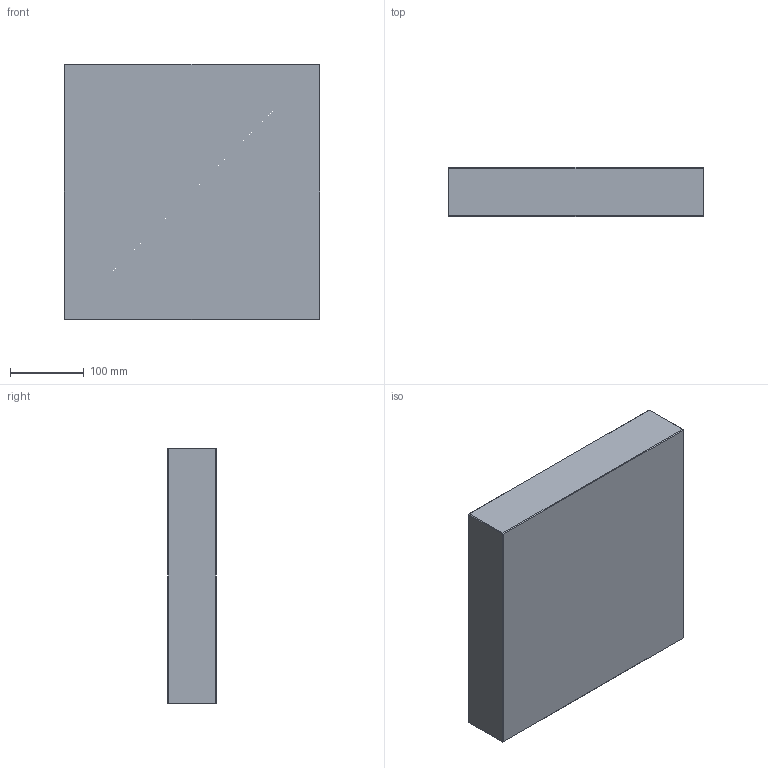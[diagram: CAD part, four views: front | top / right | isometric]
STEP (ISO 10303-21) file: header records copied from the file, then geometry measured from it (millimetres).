
FILE_DESCRIPTION (( 'STEP AP214' ), '1' );
FILE_NAME ('PC-P-346x346x66.STEP', '2020-04-01T10:01:41', ( 'August' ), ( '' ), 'SwSTEP 2.0', 'SolidWorks 2018', '' );
FILE_SCHEMA (( 'AUTOMOTIVE_DESIGN' ));
Length unit declared in the file: millimetre
Products named in the file (1): PC-P-346x346x66
Bounding box: 346 x 66 x 346 mm (x, y, z)
Volume: 7899745.3 mm3; surface area: 328996.9 mm2
Topology: 1 solids, 1 shells, 26 faces, 48 edges, 24 vertices
Faces by surface type: plane 26
Entity records: 634 total; most frequent: DIRECTION 102, CARTESIAN_POINT 99, ORIENTED_EDGE 96, LINE 48, VECTOR 48, EDGE_CURVE 48, AXIS2_PLACEMENT_3D 27, PLANE 26
